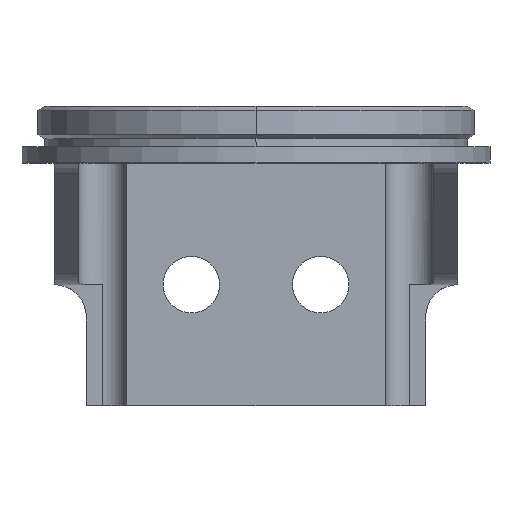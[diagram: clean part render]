
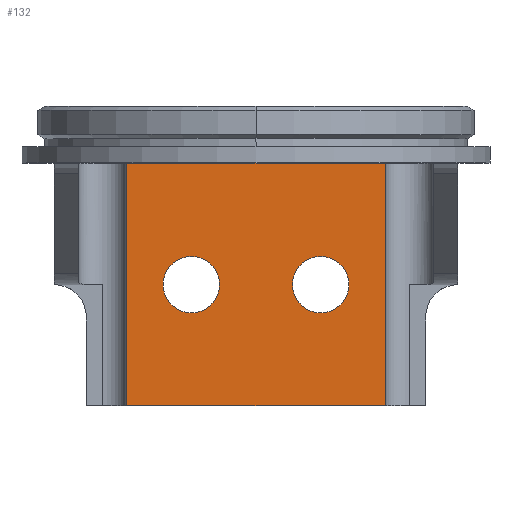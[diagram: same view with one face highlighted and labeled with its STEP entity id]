
A CAD part, top view. The second image highlights one B-rep face of the part: STEP entity #132.
In plain terms, the highlighted planar face has unit normal (0, 0, 1).
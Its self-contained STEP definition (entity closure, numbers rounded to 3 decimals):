
#17 = VECTOR ( 'NONE', #1578, 1000. ) ;
#113 = CARTESIAN_POINT ( 'NONE',  ( 5.75, 0., -13. ) ) ;
#118 = DIRECTION ( 'NONE',  ( 0., 0., -1. ) ) ;
#132 = ADVANCED_FACE ( 'NONE', ( #1413, #1926, #533 ), #2360, .F. ) ;
#134 = AXIS2_PLACEMENT_3D ( 'NONE', #2368, #1567, #2379 ) ;
#159 = VECTOR ( 'NONE', #1447, 1000. ) ;
#167 = VECTOR ( 'NONE', #390, 1000. ) ;
#210 = CIRCLE ( 'NONE', #1666, 1.75 ) ;
#243 = ORIENTED_EDGE ( 'NONE', *, *, #728, .F. ) ;
#248 = DIRECTION ( 'NONE',  ( 0., -1., 0. ) ) ;
#291 = ORIENTED_EDGE ( 'NONE', *, *, #1630, .T. ) ;
#335 = EDGE_CURVE ( 'NONE', #672, #381, #210, .T. ) ;
#339 = VERTEX_POINT ( 'NONE', #2729 ) ;
#381 = VERTEX_POINT ( 'NONE', #2740 ) ;
#390 = DIRECTION ( 'NONE',  ( 0., -1., 0. ) ) ;
#397 = VECTOR ( 'NONE', #2267, 1000. ) ;
#419 = DIRECTION ( 'NONE',  ( 0., -1., 0. ) ) ;
#428 = CARTESIAN_POINT ( 'NONE',  ( -4., 0., -13. ) ) ;
#431 = DIRECTION ( 'NONE',  ( 0., 0., -1. ) ) ;
#476 = EDGE_LOOP ( 'NONE', ( #243, #1088, #2561, #1349 ) ) ;
#533 = FACE_OUTER_BOUND ( 'NONE', #476, .T. ) ;
#607 = VERTEX_POINT ( 'NONE', #947 ) ;
#612 = EDGE_LOOP ( 'NONE', ( #2466, #2627 ) ) ;
#620 = DIRECTION ( 'NONE',  ( 0., 0., -1. ) ) ;
#628 = CARTESIAN_POINT ( 'NONE',  ( -8., 7.5, -13. ) ) ;
#672 = VERTEX_POINT ( 'NONE', #113 ) ;
#674 = AXIS2_PLACEMENT_3D ( 'NONE', #428, #2166, #248 ) ;
#716 = LINE ( 'NONE', #1270, #159 ) ;
#728 = EDGE_CURVE ( 'NONE', #1227, #339, #931, .T. ) ;
#870 = VERTEX_POINT ( 'NONE', #1482 ) ;
#922 = LINE ( 'NONE', #2500, #167 ) ;
#924 = EDGE_CURVE ( 'NONE', #607, #2441, #2326, .T. ) ;
#931 = LINE ( 'NONE', #970, #397 ) ;
#944 = LINE ( 'NONE', #2361, #17 ) ;
#947 = CARTESIAN_POINT ( 'NONE',  ( -5.75, 0., -13. ) ) ;
#970 = CARTESIAN_POINT ( 'NONE',  ( 8., 11.743, -13. ) ) ;
#975 = AXIS2_PLACEMENT_3D ( 'NONE', #2238, #118, #2423 ) ;
#1088 = ORIENTED_EDGE ( 'NONE', *, *, #2499, .F. ) ;
#1227 = VERTEX_POINT ( 'NONE', #2591 ) ;
#1270 = CARTESIAN_POINT ( 'NONE',  ( -12.5, -7.5, -13. ) ) ;
#1349 = ORIENTED_EDGE ( 'NONE', *, *, #1865, .T. ) ;
#1362 = EDGE_CURVE ( 'NONE', #1866, #870, #922, .T. ) ;
#1364 = CARTESIAN_POINT ( 'NONE',  ( -2.25, 0., -13. ) ) ;
#1397 = EDGE_CURVE ( 'NONE', #381, #672, #1646, .T. ) ;
#1413 = FACE_BOUND ( 'NONE', #612, .T. ) ;
#1447 = DIRECTION ( 'NONE',  ( 1., 0., 0. ) ) ;
#1477 = AXIS2_PLACEMENT_3D ( 'NONE', #2126, #620, #419 ) ;
#1482 = CARTESIAN_POINT ( 'NONE',  ( -8., -7.5, -13. ) ) ;
#1485 = DIRECTION ( 'NONE',  ( 0., -1., 0. ) ) ;
#1567 = DIRECTION ( 'NONE',  ( 0., 0., -1. ) ) ;
#1578 = DIRECTION ( 'NONE',  ( 1., 0., 0. ) ) ;
#1630 = EDGE_CURVE ( 'NONE', #2441, #607, #2198, .T. ) ;
#1646 = CIRCLE ( 'NONE', #1477, 1.75 ) ;
#1666 = AXIS2_PLACEMENT_3D ( 'NONE', #1729, #431, #1485 ) ;
#1729 = CARTESIAN_POINT ( 'NONE',  ( 4., 0., -13. ) ) ;
#1767 = EDGE_LOOP ( 'NONE', ( #1834, #291 ) ) ;
#1834 = ORIENTED_EDGE ( 'NONE', *, *, #924, .T. ) ;
#1865 = EDGE_CURVE ( 'NONE', #870, #339, #716, .T. ) ;
#1866 = VERTEX_POINT ( 'NONE', #628 ) ;
#1926 = FACE_BOUND ( 'NONE', #1767, .T. ) ;
#2126 = CARTESIAN_POINT ( 'NONE',  ( 4., 0., -13. ) ) ;
#2166 = DIRECTION ( 'NONE',  ( 0., 0., -1. ) ) ;
#2198 = CIRCLE ( 'NONE', #975, 1.75 ) ;
#2238 = CARTESIAN_POINT ( 'NONE',  ( -4., 0., -13. ) ) ;
#2267 = DIRECTION ( 'NONE',  ( 0., -1., 0. ) ) ;
#2326 = CIRCLE ( 'NONE', #674, 1.75 ) ;
#2360 = PLANE ( 'NONE',  #134 ) ;
#2361 = CARTESIAN_POINT ( 'NONE',  ( -12.5, 7.5, -13. ) ) ;
#2368 = CARTESIAN_POINT ( 'NONE',  ( -12.5, 7.5, -13. ) ) ;
#2379 = DIRECTION ( 'NONE',  ( 0., -1., 0. ) ) ;
#2423 = DIRECTION ( 'NONE',  ( 0., -1., 0. ) ) ;
#2441 = VERTEX_POINT ( 'NONE', #1364 ) ;
#2466 = ORIENTED_EDGE ( 'NONE', *, *, #1397, .T. ) ;
#2499 = EDGE_CURVE ( 'NONE', #1866, #1227, #944, .T. ) ;
#2500 = CARTESIAN_POINT ( 'NONE',  ( -8., 11.743, -13. ) ) ;
#2561 = ORIENTED_EDGE ( 'NONE', *, *, #1362, .T. ) ;
#2591 = CARTESIAN_POINT ( 'NONE',  ( 8., 7.5, -13. ) ) ;
#2627 = ORIENTED_EDGE ( 'NONE', *, *, #335, .T. ) ;
#2729 = CARTESIAN_POINT ( 'NONE',  ( 8., -7.5, -13. ) ) ;
#2740 = CARTESIAN_POINT ( 'NONE',  ( 2.25, 0., -13. ) ) ;
